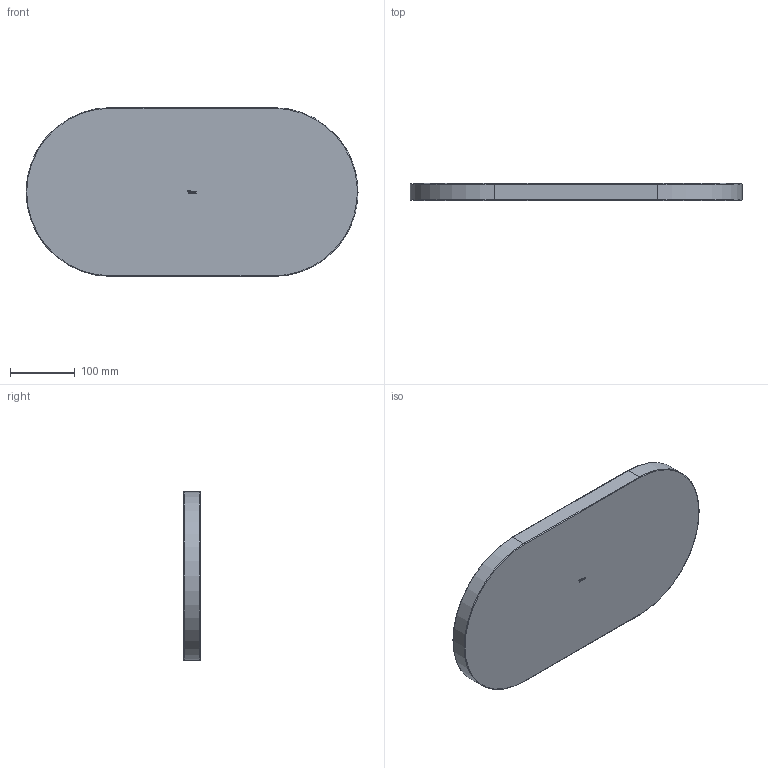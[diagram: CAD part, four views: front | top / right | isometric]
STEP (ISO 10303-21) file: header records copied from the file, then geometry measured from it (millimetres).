
FILE_DESCRIPTION (( 'STEP AP203' ), '1' );
FILE_NAME ('GINCANA FRUIT TRAYS 1.STEP', '2023-06-29T09:00:48', ( '' ), ( '' ), 'SwSTEP 2.0', 'SolidWorks 2023', '' );
FILE_SCHEMA (( 'CONFIG_CONTROL_DESIGN' ));
Length unit declared in the file: millimetre
Products named in the file (1): GINCANA FRUIT TRAYS 1
Bounding box: 511.33 x 26 x 260 mm (x, y, z)
Volume: 1809812 mm3; surface area: 304030.5 mm2
Topology: 1 solids, 1 shells, 204 faces, 486 edges, 294 vertices
Faces by surface type: bspline 70, torus 48, plane 46, cylinder 40
Entity records: 13560 total; most frequent: CARTESIAN_POINT 9188, ORIENTED_EDGE 972, DIRECTION 792, EDGE_CURVE 486, AXIS2_PLACEMENT_3D 313, VERTEX_POINT 294, EDGE_LOOP 214, FACE_OUTER_BOUND 204
